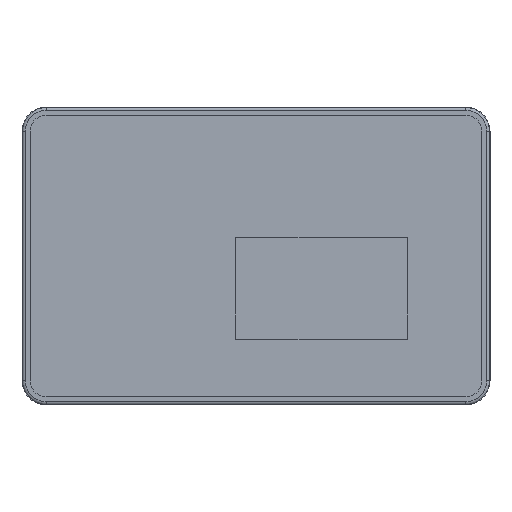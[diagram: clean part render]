
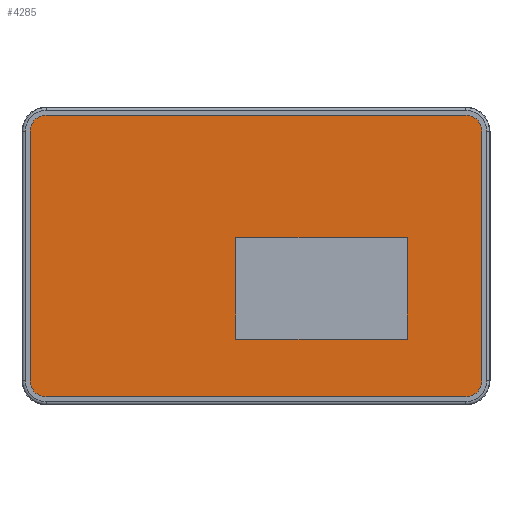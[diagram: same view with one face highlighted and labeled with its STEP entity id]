
A CAD part, front view. The second image highlights one B-rep face of the part: STEP entity #4285.
In plain terms, the highlighted planar face has unit normal (0, -1, 0).
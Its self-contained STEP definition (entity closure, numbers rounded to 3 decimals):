
#1194=DIRECTION('',(1.,0.,0.));
#1195=VECTOR('',#1194,259.);
#1196=CARTESIAN_POINT('',(-129.5,-1.,87.));
#1197=LINE('',#1196,#1195);
#1206=DIRECTION('',(0.,0.,-1.));
#1207=VECTOR('',#1206,154.);
#1208=CARTESIAN_POINT('',(139.5,-1.,77.));
#1209=LINE('',#1208,#1207);
#1218=DIRECTION('',(-1.,0.,0.));
#1219=VECTOR('',#1218,259.);
#1220=CARTESIAN_POINT('',(129.5,-1.,-87.));
#1221=LINE('',#1220,#1219);
#1230=DIRECTION('',(0.,0.,1.));
#1231=VECTOR('',#1230,154.);
#1232=CARTESIAN_POINT('',(-139.5,-1.,-77.));
#1233=LINE('',#1232,#1231);
#1234=CARTESIAN_POINT('',(-129.5,-1.,77.));
#1235=DIRECTION('',(0.,1.,0.));
#1236=DIRECTION('',(-1.,0.,0.));
#1237=AXIS2_PLACEMENT_3D('',#1234,#1235,#1236);
#1239=CARTESIAN_POINT('',(129.5,-1.,77.));
#1240=DIRECTION('',(0.,1.,0.));
#1241=DIRECTION('',(0.,0.,1.));
#1242=AXIS2_PLACEMENT_3D('',#1239,#1240,#1241);
#1244=CARTESIAN_POINT('',(129.5,-1.,-77.));
#1245=DIRECTION('',(0.,1.,0.));
#1246=DIRECTION('',(1.,0.,0.));
#1247=AXIS2_PLACEMENT_3D('',#1244,#1245,#1246);
#1249=CARTESIAN_POINT('',(-129.5,-1.,-77.));
#1250=DIRECTION('',(0.,1.,0.));
#1251=DIRECTION('',(0.,0.,-1.));
#1252=AXIS2_PLACEMENT_3D('',#1249,#1250,#1251);
#1254=DIRECTION('',(0.,0.,1.));
#1255=VECTOR('',#1254,62.56);
#1256=CARTESIAN_POINT('',(-12.44,-1.,-51.3));
#1257=LINE('',#1256,#1255);
#1262=DIRECTION('',(-1.,0.,0.));
#1263=VECTOR('',#1262,105.84);
#1264=CARTESIAN_POINT('',(93.4,-1.,-51.3));
#1265=LINE('',#1264,#1263);
#1274=DIRECTION('',(0.,0.,-1.));
#1275=VECTOR('',#1274,62.56);
#1276=CARTESIAN_POINT('',(93.4,-1.,11.26));
#1277=LINE('',#1276,#1275);
#1282=DIRECTION('',(1.,0.,0.));
#1283=VECTOR('',#1282,105.84);
#1284=CARTESIAN_POINT('',(-12.44,-1.,11.26));
#1285=LINE('',#1284,#1283);
#2113=CARTESIAN_POINT('',(-139.5,-1.,77.));
#2114=CARTESIAN_POINT('',(-129.5,-1.,87.));
#2115=VERTEX_POINT('',#2113);
#2116=VERTEX_POINT('',#2114);
#2117=CARTESIAN_POINT('',(-139.5,-1.,-77.));
#2118=VERTEX_POINT('',#2117);
#2119=CARTESIAN_POINT('',(-129.5,-1.,-87.));
#2120=VERTEX_POINT('',#2119);
#2121=CARTESIAN_POINT('',(129.5,-1.,-87.));
#2122=VERTEX_POINT('',#2121);
#2123=CARTESIAN_POINT('',(139.5,-1.,-77.));
#2124=VERTEX_POINT('',#2123);
#2125=CARTESIAN_POINT('',(139.5,-1.,77.));
#2126=VERTEX_POINT('',#2125);
#2127=CARTESIAN_POINT('',(129.5,-1.,87.));
#2128=VERTEX_POINT('',#2127);
#2129=CARTESIAN_POINT('',(-12.44,-1.,-51.3));
#2130=CARTESIAN_POINT('',(-12.44,-1.,11.26));
#2131=VERTEX_POINT('',#2129);
#2132=VERTEX_POINT('',#2130);
#2133=CARTESIAN_POINT('',(93.4,-1.,11.26));
#2134=VERTEX_POINT('',#2133);
#2135=CARTESIAN_POINT('',(93.4,-1.,-51.3));
#2136=VERTEX_POINT('',#2135);
#4260=CARTESIAN_POINT('',(0.,-1.,0.));
#4261=DIRECTION('',(0.,1.,0.));
#4262=DIRECTION('',(1.,0.,0.));
#4263=AXIS2_PLACEMENT_3D('',#4260,#4261,#4262);
#4264=PLANE('',#4263);
#4265=ORIENTED_EDGE('',*,*,#4156,.T.);
#4266=ORIENTED_EDGE('',*,*,#4171,.T.);
#4267=ORIENTED_EDGE('',*,*,#4185,.T.);
#4268=ORIENTED_EDGE('',*,*,#4199,.T.);
#4269=ORIENTED_EDGE('',*,*,#4213,.T.);
#4270=ORIENTED_EDGE('',*,*,#4227,.T.);
#4271=ORIENTED_EDGE('',*,*,#4241,.T.);
#4272=ORIENTED_EDGE('',*,*,#4254,.T.);
#4273=EDGE_LOOP('',(#4265,#4266,#4267,#4268,#4269,#4270,#4271,#4272));
#4274=FACE_OUTER_BOUND('',#4273,.F.);
#4276=ORIENTED_EDGE('',*,*,#4275,.F.);
#4278=ORIENTED_EDGE('',*,*,#4277,.F.);
#4280=ORIENTED_EDGE('',*,*,#4279,.F.);
#4282=ORIENTED_EDGE('',*,*,#4281,.F.);
#4283=EDGE_LOOP('',(#4276,#4278,#4280,#4282));
#4284=FACE_BOUND('',#4283,.F.);
#4285=ADVANCED_FACE('',(#4274,#4284),#4264,.F.);
#1238=CIRCLE('',#1237,10.);
#1243=CIRCLE('',#1242,10.);
#1248=CIRCLE('',#1247,10.);
#1253=CIRCLE('',#1252,10.);
#4156=EDGE_CURVE('',#2115,#2116,#1238,.T.);
#4171=EDGE_CURVE('',#2116,#2128,#1197,.T.);
#4185=EDGE_CURVE('',#2128,#2126,#1243,.T.);
#4199=EDGE_CURVE('',#2126,#2124,#1209,.T.);
#4213=EDGE_CURVE('',#2124,#2122,#1248,.T.);
#4227=EDGE_CURVE('',#2122,#2120,#1221,.T.);
#4241=EDGE_CURVE('',#2120,#2118,#1253,.T.);
#4254=EDGE_CURVE('',#2118,#2115,#1233,.T.);
#4275=EDGE_CURVE('',#2131,#2132,#1257,.T.);
#4277=EDGE_CURVE('',#2136,#2131,#1265,.T.);
#4279=EDGE_CURVE('',#2134,#2136,#1277,.T.);
#4281=EDGE_CURVE('',#2132,#2134,#1285,.T.);
